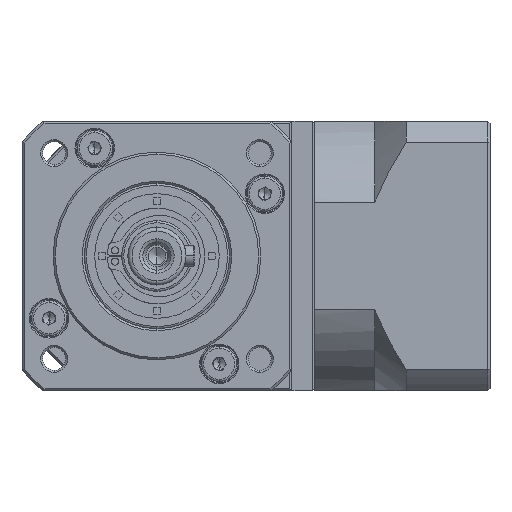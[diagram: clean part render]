
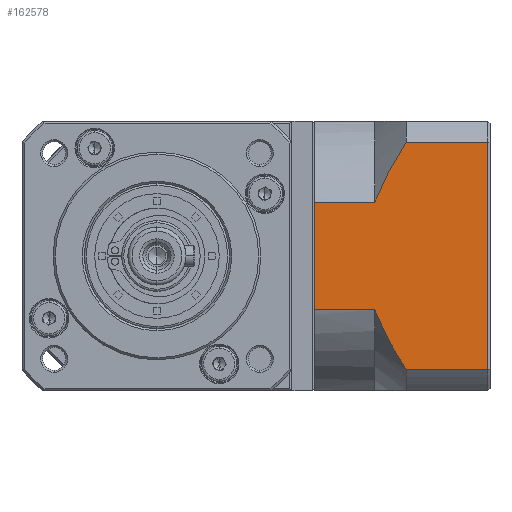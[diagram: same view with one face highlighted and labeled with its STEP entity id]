
A CAD part, left-side view. The second image highlights one B-rep face of the part: STEP entity #162578.
In plain terms, the highlighted planar face has unit normal (-1, 0, 0).
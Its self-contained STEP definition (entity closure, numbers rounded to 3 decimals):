
#3687 = VECTOR ( 'NONE', #70345, 1000. ) ;
#4968 = CARTESIAN_POINT ( 'NONE',  ( -21.287, -88.233, -133.7 ) ) ;
#5772 = LINE ( 'NONE', #49999, #108093 ) ;
#8341 = LINE ( 'NONE', #77509, #38450 ) ;
#9062 = VERTEX_POINT ( 'NONE', #64913 ) ;
#14910 = EDGE_CURVE ( 'NONE', #139010, #50682, #44559, .T. ) ;
#16595 = CARTESIAN_POINT ( 'NONE',  ( -21.287, -85.487, -141.863 ) ) ;
#16805 = CARTESIAN_POINT ( 'NONE',  ( -21.287, -92.987, -87.091 ) ) ;
#17861 = CARTESIAN_POINT ( 'NONE',  ( -21.287, -91.526, -139.595 ) ) ;
#23431 = VECTOR ( 'NONE', #106294, 1000. ) ;
#25120 = CARTESIAN_POINT ( 'NONE',  ( -21.287, -91.539, -89.38 ) ) ;
#29019 = CARTESIAN_POINT ( 'NONE',  ( -21.287, -113.187, -146.977 ) ) ;
#35048 = CARTESIAN_POINT ( 'NONE',  ( -21.287, -85.487, -127.467 ) ) ;
#37600 = EDGE_CURVE ( 'NONE', #125197, #153145, #136866, .T. ) ;
#37834 = CARTESIAN_POINT ( 'NONE',  ( -21.287, -92.987, -141.863 ) ) ;
#37835 = LINE ( 'NONE', #44602, #3687 ) ;
#38022 = CARTESIAN_POINT ( 'NONE',  ( -21.287, -92.987, -87.091 ) ) ;
#38450 = VECTOR ( 'NONE', #102673, 1000. ) ;
#41953 = DIRECTION ( 'NONE',  ( 0., 1., 0. ) ) ;
#44559 = B_SPLINE_CURVE_WITH_KNOTS ( 'NONE', 3,
 ( #119807, #157912, #106983, #68874, #158453, #81825, #4968, #94755, #17861, #107539 ),
 .UNSPECIFIED., .F., .F.,
 ( 4, 2, 2, 2, 4 ),
 ( 0.101, 0.103, 0.105, 0.109, 0.117 ),
 .UNSPECIFIED. ) ;
#44602 = CARTESIAN_POINT ( 'NONE',  ( -21.287, -112.687, -146.977 ) ) ;
#46449 = EDGE_CURVE ( 'NONE', #163054, #9062, #37835, .T. ) ;
#49999 = CARTESIAN_POINT ( 'NONE',  ( -21.287, -85.487, -87.091 ) ) ;
#50317 = CARTESIAN_POINT ( 'NONE',  ( -21.287, -70.987, -146.977 ) ) ;
#50682 = VERTEX_POINT ( 'NONE', #37834 ) ;
#50943 = CARTESIAN_POINT ( 'NONE',  ( -21.287, -89.484, -92.901 ) ) ;
#54320 = PLANE ( 'NONE',  #150548 ) ;
#62815 = EDGE_CURVE ( 'NONE', #139010, #68627, #66057, .T. ) ;
#63792 = CARTESIAN_POINT ( 'NONE',  ( -21.287, -86.429, -98.949 ) ) ;
#64913 = CARTESIAN_POINT ( 'NONE',  ( -21.287, -112.687, -87.091 ) ) ;
#65975 = ORIENTED_EDGE ( 'NONE', *, *, #121956, .F. ) ;
#66057 = LINE ( 'NONE', #35048, #98378 ) ;
#66091 = VECTOR ( 'NONE', #128642, 1000. ) ;
#68627 = VERTEX_POINT ( 'NONE', #151090 ) ;
#68874 = CARTESIAN_POINT ( 'NONE',  ( -21.287, -86.504, -130.01 ) ) ;
#70345 = DIRECTION ( 'NONE',  ( 0., 0., 1. ) ) ;
#71523 = EDGE_LOOP ( 'NONE', ( #119207, #86748, #65975, #75795, #96436, #77678, #116533, #105112 ) ) ;
#75795 = ORIENTED_EDGE ( 'NONE', *, *, #37600, .T. ) ;
#77509 = CARTESIAN_POINT ( 'NONE',  ( -21.287, -85.487, -101.487 ) ) ;
#77678 = ORIENTED_EDGE ( 'NONE', *, *, #153528, .T. ) ;
#81825 = CARTESIAN_POINT ( 'NONE',  ( -21.287, -87.628, -132.488 ) ) ;
#86106 = DIRECTION ( 'NONE',  ( 0., 1., 0. ) ) ;
#86748 = ORIENTED_EDGE ( 'NONE', *, *, #46449, .T. ) ;
#94388 = EDGE_CURVE ( 'NONE', #163054, #50682, #121556, .T. ) ;
#94755 = CARTESIAN_POINT ( 'NONE',  ( -21.287, -90.138, -137.281 ) ) ;
#96436 = ORIENTED_EDGE ( 'NONE', *, *, #130360, .F. ) ;
#98378 = VECTOR ( 'NONE', #86106, 1000. ) ;
#100189 = LINE ( 'NONE', #50317, #66091 ) ;
#102673 = DIRECTION ( 'NONE',  ( 0., -1., 0. ) ) ;
#105112 = ORIENTED_EDGE ( 'NONE', *, *, #14910, .T. ) ;
#106294 = DIRECTION ( 'NONE',  ( 0., 1., 0. ) ) ;
#106983 = CARTESIAN_POINT ( 'NONE',  ( -21.287, -85.978, -128.748 ) ) ;
#107539 = CARTESIAN_POINT ( 'NONE',  ( -21.287, -92.987, -141.863 ) ) ;
#108093 = VECTOR ( 'NONE', #126650, 1000. ) ;
#108868 = FACE_OUTER_BOUND ( 'NONE', #71523, .T. ) ;
#114710 = CARTESIAN_POINT ( 'NONE',  ( -21.287, -92.254, -88.229 ) ) ;
#115738 = CARTESIAN_POINT ( 'NONE',  ( -21.287, -85.487, -127.467 ) ) ;
#116533 = ORIENTED_EDGE ( 'NONE', *, *, #62815, .F. ) ;
#118635 = DIRECTION ( 'NONE',  ( 1., 0., 0. ) ) ;
#119207 = ORIENTED_EDGE ( 'NONE', *, *, #94388, .F. ) ;
#119807 = CARTESIAN_POINT ( 'NONE',  ( -21.287, -85.487, -127.467 ) ) ;
#121556 = LINE ( 'NONE', #16595, #23431 ) ;
#121956 = EDGE_CURVE ( 'NONE', #125197, #9062, #5772, .T. ) ;
#123773 = CARTESIAN_POINT ( 'NONE',  ( -21.287, -70.987, -101.487 ) ) ;
#125197 = VERTEX_POINT ( 'NONE', #16805 ) ;
#126650 = DIRECTION ( 'NONE',  ( 0., -1., 0. ) ) ;
#127570 = CARTESIAN_POINT ( 'NONE',  ( -21.287, -90.154, -91.715 ) ) ;
#128642 = DIRECTION ( 'NONE',  ( 0., 0., -1. ) ) ;
#130248 = CARTESIAN_POINT ( 'NONE',  ( -21.287, -112.687, -141.863 ) ) ;
#130360 = EDGE_CURVE ( 'NONE', #159032, #153145, #8341, .T. ) ;
#136866 = B_SPLINE_CURVE_WITH_KNOTS ( 'NONE', 3,
 ( #38022, #114710, #25120, #127570, #50943, #140479, #63792, #153370 ),
 .UNSPECIFIED., .F., .F.,
 ( 4, 2, 2, 4 ),
 ( 0.058, 0.062, 0.066, 0.074 ),
 .UNSPECIFIED. ) ;
#139010 = VERTEX_POINT ( 'NONE', #115738 ) ;
#140479 = CARTESIAN_POINT ( 'NONE',  ( -21.287, -87.574, -96.497 ) ) ;
#150548 = AXIS2_PLACEMENT_3D ( 'NONE', #29019, #118635, #41953 ) ;
#151090 = CARTESIAN_POINT ( 'NONE',  ( -21.287, -70.987, -127.467 ) ) ;
#153145 = VERTEX_POINT ( 'NONE', #158423 ) ;
#153370 = CARTESIAN_POINT ( 'NONE',  ( -21.287, -85.487, -101.487 ) ) ;
#153528 = EDGE_CURVE ( 'NONE', #159032, #68627, #100189, .T. ) ;
#157912 = CARTESIAN_POINT ( 'NONE',  ( -21.287, -85.726, -128.109 ) ) ;
#158423 = CARTESIAN_POINT ( 'NONE',  ( -21.287, -85.487, -101.487 ) ) ;
#158453 = CARTESIAN_POINT ( 'NONE',  ( -21.287, -86.778, -130.634 ) ) ;
#159032 = VERTEX_POINT ( 'NONE', #123773 ) ;
#162578 = ADVANCED_FACE ( 'NONE', ( #108868 ), #54320, .F. ) ;
#163054 = VERTEX_POINT ( 'NONE', #130248 ) ;
